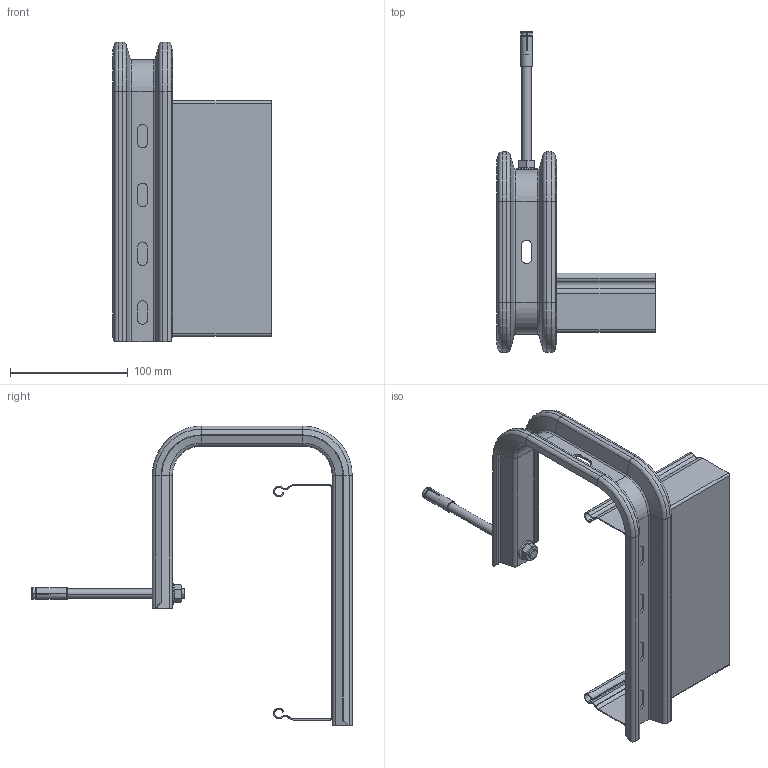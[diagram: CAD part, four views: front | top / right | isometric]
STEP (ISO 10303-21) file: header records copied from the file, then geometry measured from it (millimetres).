
FILE_DESCRIPTION (( 'STEP AP214' ), '1' );
FILE_NAME ('ﾑﾏﾏﾓ+ﾋﾏﾌﾇﾒ(ﾌ).STEP', '2016-10-05T20:17:08', ( '' ), ( '' ), 'SwSTEP 2.0', 'SolidWorks 2016', '' );
FILE_SCHEMA (( 'AUTOMOTIVE_DESIGN' ));
Length unit declared in the file: millimetre
Products named in the file (8): Ëîòîê Îáðàç_200å50; ﾑﾏﾏﾓ+ﾋﾏﾌﾇﾒ(ﾌ); 051011-051031 严嫌_憦彄-200; ﾀ渼褞 鈞礪粹鵫; 抔鴈 燴耪譇; Òðóáêà Àíêåðà çàáèâíîãî; 067809 襟8捘_Hexagon Flange Nut DIN 6923 - M8 - N; 064829 ØÏ8-2_˜¯¨«ìª  M8-6gx100 ƒŽ‘’ 22034-76
Assembly tree (8 placements, depth 3):
  ﾑﾏﾏﾓ+ﾋﾏﾌﾇﾒ(ﾌ)
    Ëîòîê Îáðàç_200å50
    064829 ØÏ8-2_˜¯¨«ìª  M8-6gx100 ƒŽ‘’ 22034-76
    067809 襟8捘_Hexagon Flange Nut DIN 6923 - M8 - N  x2
    ﾀ渼褞 鈞礪粹鵫
      Òðóáêà Àíêåðà çàáèâíîãî
      抔鴈 燴耪譇
    051011-051031 严嫌_憦彄-200
Bounding box: 135 x 272.5 x 255 mm (x, y, z)
Volume: 125688.9 mm3; surface area: 172031.5 mm2
Topology: 7 solids, 7 shells, 392 faces, 921 edges, 544 vertices
Faces by surface type: plane 145, cylinder 121, torus 60, cone 54, bspline 12
Entity records: 11199 total; most frequent: CARTESIAN_POINT 2577, DIRECTION 1793, ORIENTED_EDGE 1702, EDGE_CURVE 851, AXIS2_PLACEMENT_3D 684, VERTEX_POINT 504, LINE 425, VECTOR 425
